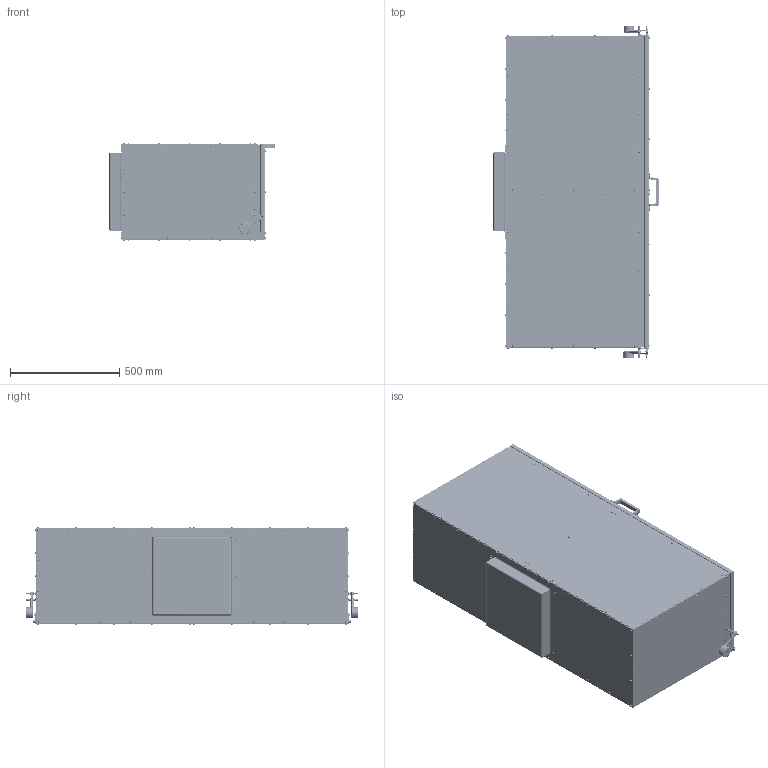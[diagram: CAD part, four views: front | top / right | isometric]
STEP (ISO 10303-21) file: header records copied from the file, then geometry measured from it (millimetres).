
FILE_DESCRIPTION(('STEP AP214'), '1');
FILE_NAME('ÓÔ óñòàíîâêà_èçäåëèå', '', ('UNSPECIFIED'), ('UNSPECIFIED'), 'C3D Converter', 'C3D Toolkit', '');
FILE_SCHEMA(('AUTOMOTIVE_DESIGN { 1 0 10303 214 3 1 1}'));
Length unit declared in the file: millimetre
Products named in the file (72): Nodes
Assembly tree (403 placements, depth 3):
  (unnamed)
    (unnamed)
    (unnamed)
    (unnamed)  x3
    (unnamed)  x3
    (unnamed)
    (unnamed)
    (unnamed)  x10
    (unnamed)  x6
    (unnamed)  x2
    (unnamed)
    (unnamed)
    (unnamed)
      (unnamed)
      (unnamed)
      Nodes  x2
    (unnamed)
    (unnamed)
    (unnamed)  x2
    (unnamed)
    (unnamed)  x2
    (unnamed)  x2
    (unnamed)
    (unnamed)  x2
    (unnamed)  x4
    (unnamed)
    (unnamed)
    (unnamed)  x2
    (unnamed)
    (unnamed)  x2
    (unnamed)  x4
    (unnamed)
    (unnamed)
    (unnamed)
    (unnamed)  x42
    (unnamed)  x38
    (unnamed)  x8
    (unnamed)
    (unnamed)  x4
    (unnamed)  x28
    (unnamed)
    (unnamed)
    (unnamed)
    (unnamed)
    (unnamed)
      (unnamed)  x2
      (unnamed)
      (unnamed)
      (unnamed)  x2
      (unnamed)  x2
      (unnamed)
      (unnamed)
      (unnamed)
      (unnamed)
      (unnamed)
      (unnamed)
      (unnamed)  x2
      (unnamed)  x36
      (unnamed)
    (unnamed)
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Bounding box: 757.9 x 1522.4 x 448.9 mm (x, y, z)
Volume: 15034118.4 mm3; surface area: 21903212.3 mm2
Topology: 406 solids, 408 shells, 8863 faces, 23601 edges, 15470 vertices
Faces by surface type: plane 4028, cylinder 3210, cone 786, torus 453, sphere 331, bspline 55
Full cylindrical faces by diameter (mm): 2.9 x5, 3.5 x2, 4 x7, 4.2 x152, 4.5 x2, 4.917 x32, 5 x7, 5.4 x3, 6 x119, 6.4 x6, 7 x4, 7.883 x4, 8 x155, 8.88 x38, 9 x177, 10 x49, 11 x6, 12 x8, 14 x2, 15 x1, 25 x1, 28 x1, 50 x2, 128 x1, 130 x2
Entity records: 81408 total; most frequent: CARTESIAN_POINT 17058, DIRECTION 8821, ORIENTED_EDGE 7670, EDGE_CURVE 3835, AXIS2_PLACEMENT_3D 3300, VERTEX_POINT 2597, EDGE_LOOP 2329, LINE 2221
